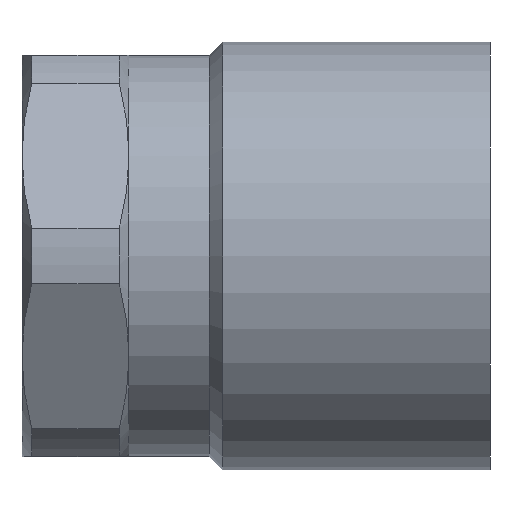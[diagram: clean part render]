
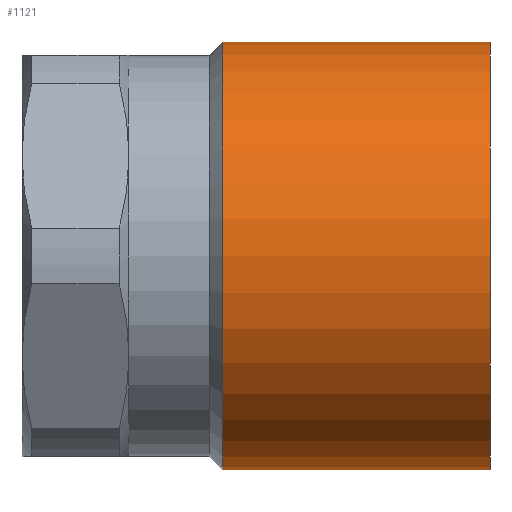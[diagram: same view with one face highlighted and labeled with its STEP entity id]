
A CAD part, front view. The second image highlights one B-rep face of the part: STEP entity #1121.
In plain terms, the highlighted cylindrical face has radius 16 mm (diameter 32 mm), a full revolution.
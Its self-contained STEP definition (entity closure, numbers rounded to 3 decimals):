
#1087=CARTESIAN_POINT('',(15.0,16.,0.0));
#1088=VERTEX_POINT('',#1087);
#1089=CARTESIAN_POINT('',(15.,0.,0.0));
#1090=DIRECTION('',(1.0,0.0,0.0));
#1091=DIRECTION('',(0.0,1.0,0.0));
#1092=AXIS2_PLACEMENT_3D('',#1089,#1090,#1091);
#1093=CIRCLE('',#1092,16.);
#1094=EDGE_CURVE('',#1088,#1088,#1093,.T.);
#1102=CARTESIAN_POINT('',(25.0,0.,0.0));
#1103=DIRECTION('',(1.0,0.,0.0));
#1104=DIRECTION('',(0.0,1.0,0.0));
#1105=AXIS2_PLACEMENT_3D('',#1102,#1103,#1104);
#1106=CYLINDRICAL_SURFACE('',#1105,16.);
#1107=CARTESIAN_POINT('',(35.0,16.,0.0));
#1108=VERTEX_POINT('',#1107);
#1109=CARTESIAN_POINT('',(35.0,0.,0.0));
#1110=DIRECTION('',(1.0,0.0,0.0));
#1111=DIRECTION('',(0.0,1.0,0.0));
#1112=AXIS2_PLACEMENT_3D('',#1109,#1110,#1111);
#1113=CIRCLE('',#1112,16.0);
#1114=EDGE_CURVE('',#1108,#1108,#1113,.T.);
#1115=ORIENTED_EDGE('',*,*,#1114,.F.);
#1116=EDGE_LOOP('',(#1115));
#1117=FACE_OUTER_BOUND('',#1116,.T.);
#1118=ORIENTED_EDGE('',*,*,#1094,.T.);
#1119=EDGE_LOOP('',(#1118));
#1120=FACE_BOUND('',#1119,.T.);
#1121=ADVANCED_FACE('',(#1117,#1120),#1106,.T.);
